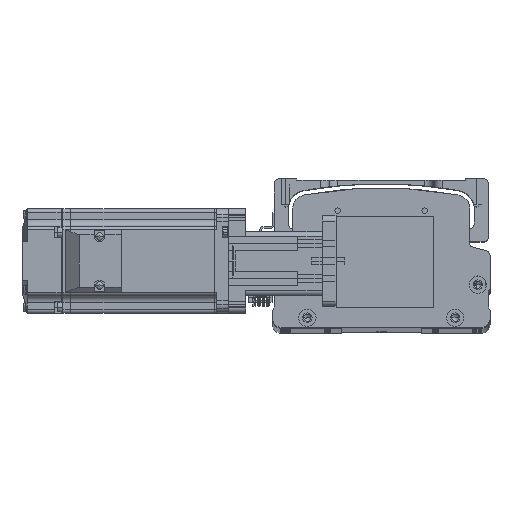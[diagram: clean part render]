
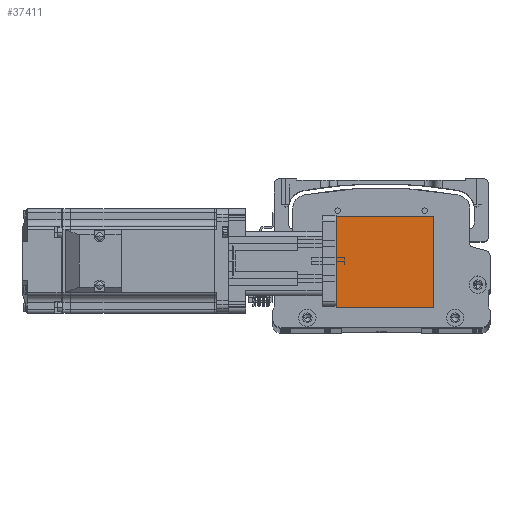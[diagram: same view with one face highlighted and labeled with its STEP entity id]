
A CAD part, top view. The second image highlights one B-rep face of the part: STEP entity #37411.
In plain terms, the highlighted planar face has unit normal (0, 0, 1) as drawn and (-1, 0, 0) by its records, which use the part's own axes.
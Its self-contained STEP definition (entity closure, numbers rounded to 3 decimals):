
#1710 = CARTESIAN_POINT ( 'NONE',  ( -31.5, 26., 56. ) ) ;
#2018 = VERTEX_POINT ( 'NONE', #60801 ) ;
#2665 = CARTESIAN_POINT ( 'NONE',  ( -31.5, -26., 56. ) ) ;
#5349 = DIRECTION ( 'NONE',  ( 1., 0., 0. ) ) ;
#5632 = VERTEX_POINT ( 'NONE', #41323 ) ;
#7879 = VECTOR ( 'NONE', #32453, 1000. ) ;
#8784 = CARTESIAN_POINT ( 'NONE',  ( -31.5, -26., 56. ) ) ;
#9149 = CARTESIAN_POINT ( 'NONE',  ( -31.5, -26., 56. ) ) ;
#10634 = LINE ( 'NONE', #9149, #24237 ) ;
#10764 = EDGE_CURVE ( 'NONE', #5632, #59526, #31128, .T. ) ;
#12612 = ORIENTED_EDGE ( 'NONE', *, *, #10764, .T. ) ;
#14946 = DIRECTION ( 'NONE',  ( 0., -1., 0. ) ) ;
#15176 = CARTESIAN_POINT ( 'NONE',  ( -31.5, -26., 0. ) ) ;
#15493 = PLANE ( 'NONE',  #55930 ) ;
#16534 = VERTEX_POINT ( 'NONE', #8784 ) ;
#23162 = LINE ( 'NONE', #1710, #7879 ) ;
#24237 = VECTOR ( 'NONE', #39867, 1000. ) ;
#28060 = ORIENTED_EDGE ( 'NONE', *, *, #46034, .T. ) ;
#30916 = LINE ( 'NONE', #2665, #58214 ) ;
#31128 = LINE ( 'NONE', #15176, #41547 ) ;
#32453 = DIRECTION ( 'NONE',  ( 0., 0., -1. ) ) ;
#35461 = ORIENTED_EDGE ( 'NONE', *, *, #65426, .F. ) ;
#37411 = ADVANCED_FACE ( 'NONE', ( #57147 ), #15493, .F. ) ;
#39867 = DIRECTION ( 'NONE',  ( 0., 0., -1. ) ) ;
#41234 = DIRECTION ( 'NONE',  ( 0., 0., -1. ) ) ;
#41323 = CARTESIAN_POINT ( 'NONE',  ( -31.5, 26., 0. ) ) ;
#41547 = VECTOR ( 'NONE', #14946, 1000. ) ;
#46034 = EDGE_CURVE ( 'NONE', #2018, #5632, #23162, .T. ) ;
#50505 = EDGE_LOOP ( 'NONE', ( #12612, #35461, #65587, #28060 ) ) ;
#55930 = AXIS2_PLACEMENT_3D ( 'NONE', #61641, #5349, #41234 ) ;
#57147 = FACE_OUTER_BOUND ( 'NONE', #50505, .T. ) ;
#58214 = VECTOR ( 'NONE', #59197, 1000. ) ;
#59197 = DIRECTION ( 'NONE',  ( 0., -1., 0. ) ) ;
#59526 = VERTEX_POINT ( 'NONE', #63525 ) ;
#60801 = CARTESIAN_POINT ( 'NONE',  ( -31.5, 26., 56. ) ) ;
#61641 = CARTESIAN_POINT ( 'NONE',  ( -31.5, -26., 56. ) ) ;
#63525 = CARTESIAN_POINT ( 'NONE',  ( -31.5, -26., 0. ) ) ;
#63858 = EDGE_CURVE ( 'NONE', #2018, #16534, #30916, .T. ) ;
#65426 = EDGE_CURVE ( 'NONE', #16534, #59526, #10634, .T. ) ;
#65587 = ORIENTED_EDGE ( 'NONE', *, *, #63858, .F. ) ;
